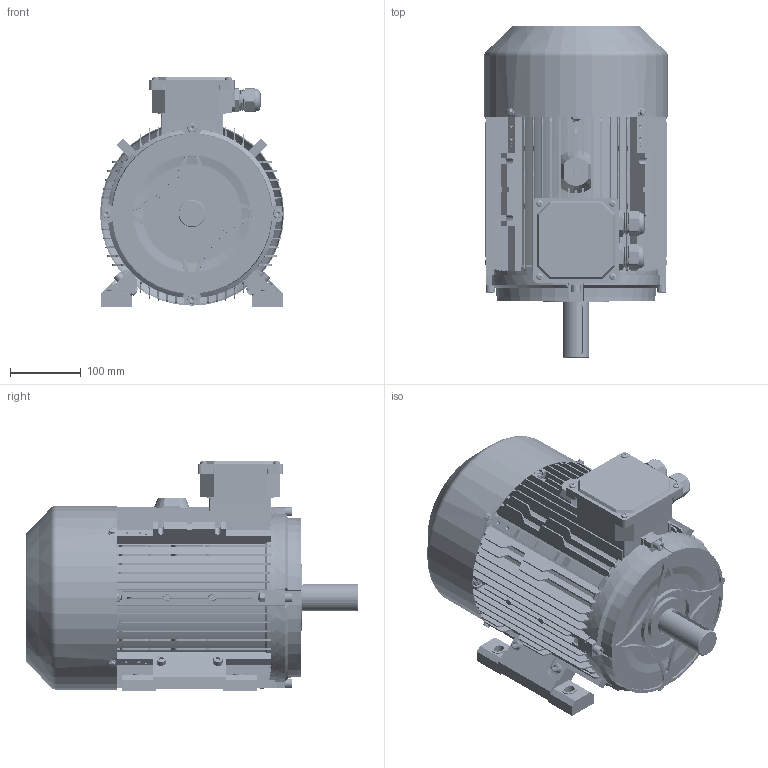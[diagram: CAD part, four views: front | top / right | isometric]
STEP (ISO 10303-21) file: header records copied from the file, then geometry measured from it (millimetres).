
FILE_DESCRIPTION (( 'STEP AP203' ), '1' );
FILE_NAME ('ME3-132S B3 3D.STEP', '2024-07-27T02:14:28', ( 'User' ), ( 'China' ), 'SwSTEP 2.0', 'SolidWorks 2018', '' );
FILE_SCHEMA (( 'CONFIG_CONTROL_DESIGN' ));
Length unit declared in the file: millimetre
Products named in the file (18): ME3-132S菁褐; spring lock washers--normal type gb_GB_FASTENER_WASHER_SW 8; ME3-132 B3傷裔; hexagon socket head cap screws gb_GB_FASTENER_SCREWS_HSHCS M8X30-S; deep groove ball bearings gb_Rolling bearings 6308 GB 276-94; ME3-132瑞欶; ME3-132S蛌粣; hex flange bolts-heavy grade b gb_GB_FASTENER_BOLT_HFBB M5X10-S; MS112-132 諉盄碟釱; cross recessed pan head screws gb_GB_CROSS_SCREWS_TYPE1 M5X8-8  H type-S; M24 蹟杶; MS112-132諉盄碟裔; M24 蹟杶簸; 40X58X7蚐猾; hexagon socket head cap screws gb_GB_FASTENER_SCREWS_HSHCS M8X40-S; ME3-132S儂褲; ME3-132S B3   3D; hex nuts-style normal-grades ab gb_GB_HEXAGON_TYPE10 M8X1-S
Assembly tree (55 placements, depth 2):
  ME3-132S B3   3D
    ME3-132S儂褲
    ME3-132S菁褐  x2
    ME3-132 B3傷裔  x2
    deep groove ball bearings gb_Rolling bearings 6308 GB 276-94  x2
    ME3-132S蛌粣
    MS112-132 諉盄碟釱
    M24 蹟杶  x2
    M24 蹟杶簸  x2
    hexagon socket head cap screws gb_GB_FASTENER_SCREWS_HSHCS M8X40-S  x7
    hex nuts-style normal-grades ab gb_GB_HEXAGON_TYPE10 M8X1-S  x11
    spring lock washers--normal type gb_GB_FASTENER_WASHER_SW 8  x4
    hexagon socket head cap screws gb_GB_FASTENER_SCREWS_HSHCS M8X30-S  x5
    ME3-132瑞欶
    hex flange bolts-heavy grade b gb_GB_FASTENER_BOLT_HFBB M5X10-S  x4
    cross recessed pan head screws gb_GB_CROSS_SCREWS_TYPE1 M5X8-8  H type-S  x8
    MS112-132諉盄碟裔
    40X58X7蚐猾
Bounding box: 259.6 x 467.96 x 325 mm (x, y, z)
Volume: 3480054.9 mm3; surface area: 1748402.7 mm2
Topology: 57 solids, 58 shells, 8525 faces, 20735 edges, 12311 vertices
Faces by surface type: cone 3196, plane 2554, cylinder 2401, torus 254, sphere 76, bspline 44
Entity records: 131083 total; most frequent: CARTESIAN_POINT 33038, ORIENTED_EDGE 20476, DIRECTION 19034, EDGE_CURVE 10238, VERTEX_POINT 6541, VECTOR 6494, LINE 6494, AXIS2_PLACEMENT_3D 6270
